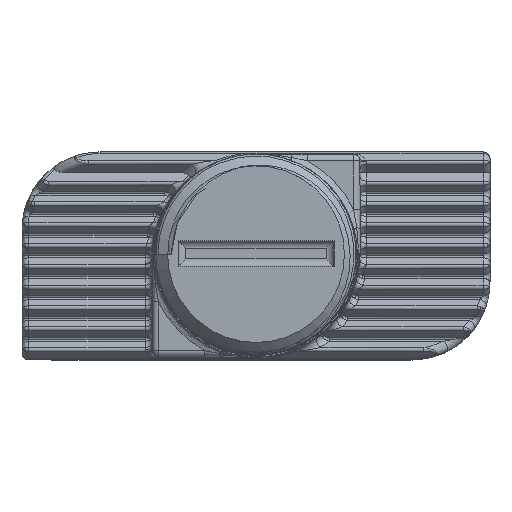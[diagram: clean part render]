
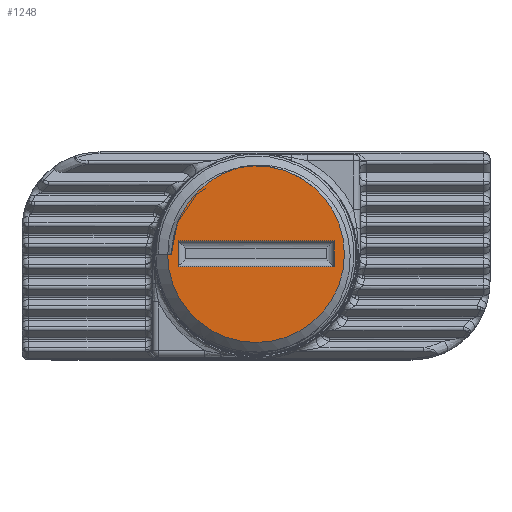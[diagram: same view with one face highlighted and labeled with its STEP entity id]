
A CAD part, top view. The second image highlights one B-rep face of the part: STEP entity #1248.
In plain terms, the highlighted planar face has unit normal (0, 0, 1).
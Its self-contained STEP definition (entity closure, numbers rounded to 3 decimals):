
#556 = EDGE_CURVE ( 'NONE', #3685, #16750, #16522, .T. ) ;
#725 = CARTESIAN_POINT ( 'NONE',  ( -0.581, 3.997, 44.5 ) ) ;
#998 = DIRECTION ( 'NONE',  ( -1., 0., 0. ) ) ;
#1021 = CARTESIAN_POINT ( 'NONE',  ( -3.4, 0.647, 44.5 ) ) ;
#1121 = DIRECTION ( 'NONE',  ( 0., 0., 1. ) ) ;
#1248 = ADVANCED_FACE ( 'NONE', ( #3676, #11721 ), #14583, .T. ) ;
#1250 = EDGE_LOOP ( 'NONE', ( #6988, #14894, #3765, #19898 ) ) ;
#1320 = CARTESIAN_POINT ( 'NONE',  ( -1.362, 3.709, 44.5 ) ) ;
#1396 = CARTESIAN_POINT ( 'NONE',  ( -3.238, 0.647, 44.5 ) ) ;
#1408 = ORIENTED_EDGE ( 'NONE', *, *, #556, .T. ) ;
#2308 = VECTOR ( 'NONE', #11742, 1000. ) ;
#2420 = DIRECTION ( 'NONE',  ( 0., 0., 1. ) ) ;
#2450 = EDGE_CURVE ( 'NONE', #7220, #4163, #20003, .T. ) ;
#2864 = B_SPLINE_CURVE_WITH_KNOTS ( 'NONE', 3,
 ( #9862, #4615, #1320, #13276, #3062, #15006, #4770, #16716, #6487, #18435, #8225, #20158, #9940, #21854, #11656, #1396 ),
 .UNSPECIFIED., .F., .F.,
 ( 4, 2, 2, 2, 2, 2, 2, 4 ),
 ( 0., 0.001, 0.002, 0.002, 0.003, 0.003, 0.004, 0.005 ),
 .UNSPECIFIED. ) ;
#2895 = AXIS2_PLACEMENT_3D ( 'NONE', #12647, #2420, #14363 ) ;
#3062 = CARTESIAN_POINT ( 'NONE',  ( -1.98, 3.285, 44.5 ) ) ;
#3085 = CARTESIAN_POINT ( 'NONE',  ( -3., 0.164, 44.5 ) ) ;
#3138 = VERTEX_POINT ( 'NONE', #11626 ) ;
#3266 = CARTESIAN_POINT ( 'NONE',  ( -3., 1.164, 44.5 ) ) ;
#3676 = FACE_BOUND ( 'NONE', #1250, .T. ) ;
#3685 = VERTEX_POINT ( 'NONE', #9955 ) ;
#3765 = ORIENTED_EDGE ( 'NONE', *, *, #7767, .F. ) ;
#4163 = VERTEX_POINT ( 'NONE', #6189 ) ;
#4205 = EDGE_CURVE ( 'NONE', #19631, #3685, #2864, .T. ) ;
#4615 = CARTESIAN_POINT ( 'NONE',  ( -1.012, 3.867, 44.5 ) ) ;
#4770 = CARTESIAN_POINT ( 'NONE',  ( -2.39, 2.891, 44.5 ) ) ;
#5218 = LINE ( 'NONE', #3085, #18322 ) ;
#5879 = CARTESIAN_POINT ( 'NONE',  ( -0.626, 3.984, 44.5 ) ) ;
#6179 = EDGE_CURVE ( 'NONE', #4163, #16360, #5218, .T. ) ;
#6189 = CARTESIAN_POINT ( 'NONE',  ( -3., 0.164, 44.5 ) ) ;
#6487 = CARTESIAN_POINT ( 'NONE',  ( -2.726, 2.441, 44.5 ) ) ;
#6840 = ORIENTED_EDGE ( 'NONE', *, *, #7454, .T. ) ;
#6988 = ORIENTED_EDGE ( 'NONE', *, *, #2450, .F. ) ;
#7214 = VECTOR ( 'NONE', #20037, 1000. ) ;
#7220 = VERTEX_POINT ( 'NONE', #3266 ) ;
#7454 = EDGE_CURVE ( 'NONE', #16750, #16107, #21760, .T. ) ;
#7767 = EDGE_CURVE ( 'NONE', #16360, #3138, #20834, .T. ) ;
#8225 = CARTESIAN_POINT ( 'NONE',  ( -2.986, 1.936, 44.5 ) ) ;
#9205 = B_SPLINE_CURVE_WITH_KNOTS ( 'NONE', 3,
 ( #725, #10995, #5879, #17851 ),
 .UNSPECIFIED., .F., .F.,
 ( 4, 4 ),
 ( 0., 0.001 ),
 .UNSPECIFIED. ) ;
#9862 = CARTESIAN_POINT ( 'NONE',  ( -0.648, 3.978, 44.5 ) ) ;
#9940 = CARTESIAN_POINT ( 'NONE',  ( -3.157, 1.399, 44.5 ) ) ;
#9955 = CARTESIAN_POINT ( 'NONE',  ( -3.238, 0.647, 44.5 ) ) ;
#10377 = EDGE_CURVE ( 'NONE', #16107, #19631, #9205, .T. ) ;
#10995 = CARTESIAN_POINT ( 'NONE',  ( -0.604, 3.991, 44.5 ) ) ;
#11024 = CARTESIAN_POINT ( 'NONE',  ( -0.648, 3.978, 44.5 ) ) ;
#11121 = CARTESIAN_POINT ( 'NONE',  ( -3., 1.164, 44.5 ) ) ;
#11382 = CARTESIAN_POINT ( 'NONE',  ( 0., 0.647, 44.5 ) ) ;
#11626 = CARTESIAN_POINT ( 'NONE',  ( 3., 1.164, 44.5 ) ) ;
#11656 = CARTESIAN_POINT ( 'NONE',  ( -3.238, 0.837, 44.5 ) ) ;
#11721 = FACE_OUTER_BOUND ( 'NONE', #15143, .T. ) ;
#11742 = DIRECTION ( 'NONE',  ( -1., 0., 0. ) ) ;
#12647 = CARTESIAN_POINT ( 'NONE',  ( 0., 0.647, 44.5 ) ) ;
#12755 = EDGE_CURVE ( 'NONE', #3138, #7220, #15411, .T. ) ;
#13082 = DIRECTION ( 'NONE',  ( 1., 0., 0. ) ) ;
#13099 = CARTESIAN_POINT ( 'NONE',  ( 0., 0.647, 44.5 ) ) ;
#13276 = CARTESIAN_POINT ( 'NONE',  ( -1.832, 3.4, 44.5 ) ) ;
#14363 = DIRECTION ( 'NONE',  ( 1., 0., 0. ) ) ;
#14583 = PLANE ( 'NONE',  #17534 ) ;
#14894 = ORIENTED_EDGE ( 'NONE', *, *, #12755, .F. ) ;
#15006 = CARTESIAN_POINT ( 'NONE',  ( -2.259, 3.031, 44.5 ) ) ;
#15026 = DIRECTION ( 'NONE',  ( 1., 0., 0. ) ) ;
#15143 = EDGE_LOOP ( 'NONE', ( #22002, #1408, #6840, #18343 ) ) ;
#15411 = LINE ( 'NONE', #18509, #2308 ) ;
#15450 = VECTOR ( 'NONE', #19888, 1000. ) ;
#16107 = VERTEX_POINT ( 'NONE', #20330 ) ;
#16360 = VERTEX_POINT ( 'NONE', #18949 ) ;
#16522 = LINE ( 'NONE', #13099, #17054 ) ;
#16716 = CARTESIAN_POINT ( 'NONE',  ( -2.623, 2.597, 44.5 ) ) ;
#16750 = VERTEX_POINT ( 'NONE', #1021 ) ;
#17054 = VECTOR ( 'NONE', #998, 1000. ) ;
#17534 = AXIS2_PLACEMENT_3D ( 'NONE', #11382, #1121, #13082 ) ;
#17851 = CARTESIAN_POINT ( 'NONE',  ( -0.648, 3.978, 44.5 ) ) ;
#18309 = CARTESIAN_POINT ( 'NONE',  ( 3., 1.164, 44.5 ) ) ;
#18322 = VECTOR ( 'NONE', #15026, 1000. ) ;
#18343 = ORIENTED_EDGE ( 'NONE', *, *, #10377, .T. ) ;
#18435 = CARTESIAN_POINT ( 'NONE',  ( -2.908, 2.111, 44.5 ) ) ;
#18509 = CARTESIAN_POINT ( 'NONE',  ( -3., 1.164, 44.5 ) ) ;
#18949 = CARTESIAN_POINT ( 'NONE',  ( 3., 0.164, 44.5 ) ) ;
#19631 = VERTEX_POINT ( 'NONE', #11024 ) ;
#19888 = DIRECTION ( 'NONE',  ( 0., -1., 0. ) ) ;
#19898 = ORIENTED_EDGE ( 'NONE', *, *, #6179, .F. ) ;
#20003 = LINE ( 'NONE', #11121, #15450 ) ;
#20037 = DIRECTION ( 'NONE',  ( 0., 1., 0. ) ) ;
#20158 = CARTESIAN_POINT ( 'NONE',  ( -3.11, 1.58, 44.5 ) ) ;
#20330 = CARTESIAN_POINT ( 'NONE',  ( -0.581, 3.997, 44.5 ) ) ;
#20834 = LINE ( 'NONE', #18309, #7214 ) ;
#21760 = CIRCLE ( 'NONE', #2895, 3.4 ) ;
#21854 = CARTESIAN_POINT ( 'NONE',  ( -3.221, 1.028, 44.5 ) ) ;
#22002 = ORIENTED_EDGE ( 'NONE', *, *, #4205, .T. ) ;
